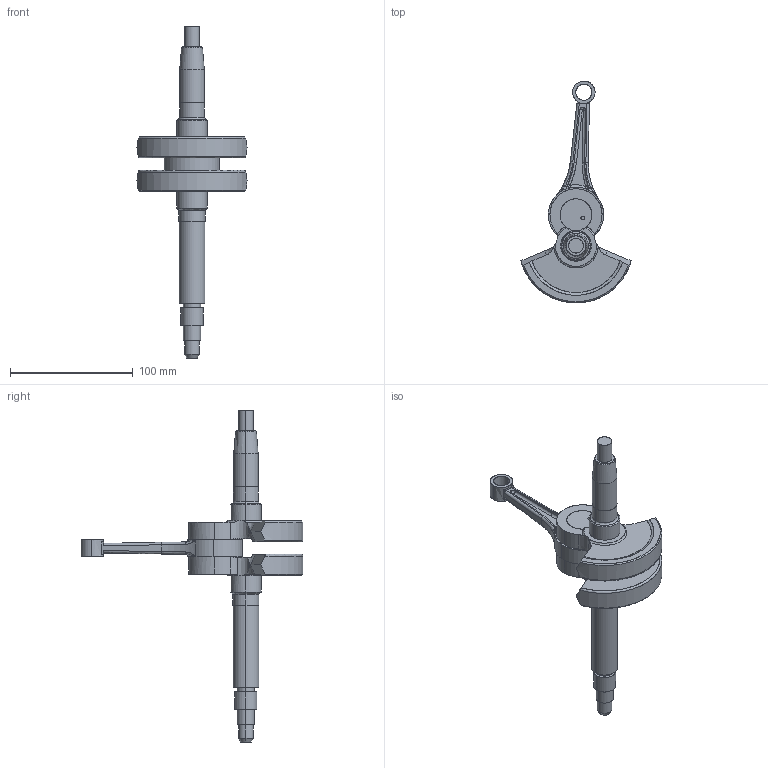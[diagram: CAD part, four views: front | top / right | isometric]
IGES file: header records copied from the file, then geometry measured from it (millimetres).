
Start section: SolidWorks IGES file using analytic representation for surfaces
Bounding box: 89.85 x 180.86 x 270.55 mm (x, y, z)
Surface area: 57706.3 mm2 (no closed solid volume)
Topology: 0 solids, 0 shells, 269 faces, 4273 edges, 4255 vertices
Faces by surface type: revolution 150, bspline 119
